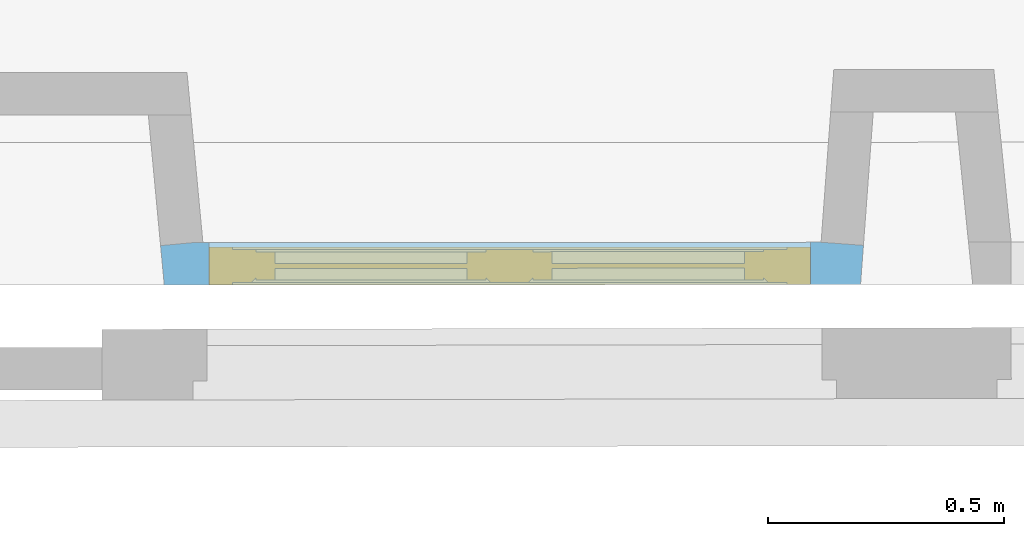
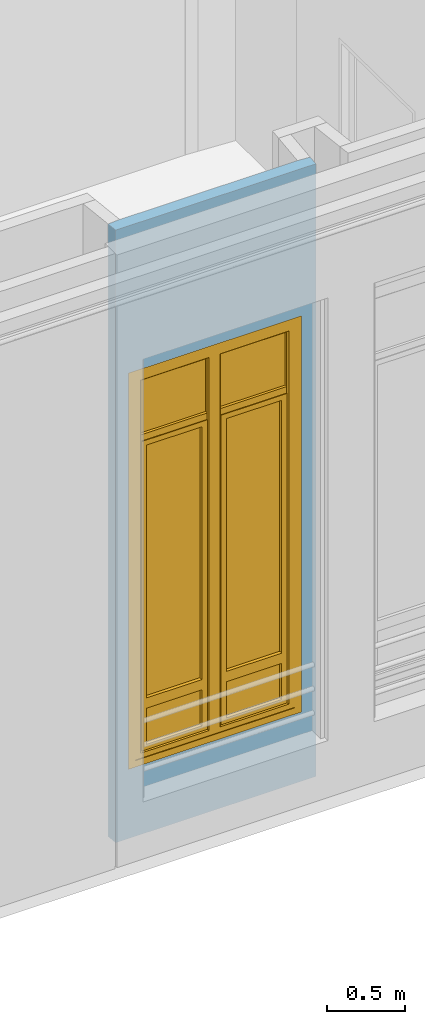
# One storey, part 52 of 97: 1 window, 1 opening, plus 1 element that does not belong to this part.
"""IFC2X3 building model written with IfcOpenShell, lengths in centimetres."""

from ifc_helpers import new_model, entity, si_unit, converted_unit, direction, frame, origin, origin_with_axes, place, context, subcontext, project, spatial, polyline, outline, extrude, faceted_brep, shape, source, transform, mapped, material, material_list, layer, layer_set, layer_usage, type_object, element, fill, save


model = new_model("IFC2X3")

# Units and contexts
model_context = context("Model", 3, precision=0.0001, world=origin(), true_north=direction((0.225632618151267, 0.974212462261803, 0.0)))
body_context = subcontext(model_context, "Body", "Model", "MODEL_VIEW")
footprint_context = subcontext(model_context, "FootPrint", "Model", "MODEL_VIEW")
profile_context = subcontext(model_context, "Profile", "Model", "MODEL_VIEW")
ifc_project = project(units=[si_unit("LENGTHUNIT", "METRE", prefix="CENTI"), si_unit("AREAUNIT", "SQUARE_METRE", prefix="CENTI"), si_unit("VOLUMEUNIT", "CUBIC_METRE", prefix="CENTI"), converted_unit("PLANEANGLEUNIT", "DEGREE", entity("IfcRatioMeasure", 0.0174532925), si_unit("PLANEANGLEUNIT", "RADIAN"), dimensions=[0, 0, 0, 0, 0, 0, 0])], contexts=[model_context])

# Site, building, storey
site_placement = place(None, origin_with_axes())
site = spatial("IfcSite", under=ifc_project, at=site_placement, Name="Default Site", CompositionType="ELEMENT")
building_placement = place(site_placement, origin_with_axes())
building = spatial("IfcBuilding", under=site, at=building_placement, Name="Default Building", CompositionType="ELEMENT")
storey_placement = place(building_placement, origin_with_axes())
storey = spatial("IfcBuildingStorey", under=building, at=storey_placement, Name="Rez-de-chaussée", CompositionType="ELEMENT", Elevation=0.0)

# Wall, opening, window
ifc_material_1 = material(Name="<aucun>")
ifc_layer = layer(ifc_material_1, 9.0)
ifc_layer_set = layer_set([ifc_layer], Name="default")
ifc_layer_usage = layer_usage(ifc_layer_set, "AXIS2", "POSITIVE", -4.5)
wall_type = type_object("IfcWallType", Name="default 90", PredefinedType="NOTDEFINED", material=ifc_layer_set)
wall_placement = place(storey_placement, frame((411.196494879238, -1020.73846299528, 0.0128503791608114), z_axis=(0.0, 0.0, 1.0), x_axis=(0.999999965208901, 0.000263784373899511, 0.0)))
wall = element("IfcWallStandardCase", 1, at=wall_placement, inside=storey, type_object=wall_type, material=ifc_layer_usage, Name="Enveloppe 768435", context=body_context, shape_type="SweptSolid", body=[
    extrude(outline(polyline([(-4.87621051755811, 3.81736189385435), (-4.09920490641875, -4.49999999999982), (143.535233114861, -4.50000000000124), (144.15018441, 3.8380241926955), (135.174562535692, 4.49999999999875), (2.43100603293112, 4.50044004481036), (-4.87621051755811, 3.81736189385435)])), frame((0.0, 0.0, -2.71050543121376e-18), z_axis=(0.0, 0.0, 1.0), x_axis=(1.0, 0.0, 0.0)), (0.0, 0.0, 1.0), 477.795358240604),
])
opening_placement = place(wall_placement, frame((5.34689146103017, 0.0, 54.0313409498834), z_axis=(0.0, 0.0, 1.0), x_axis=(1.0, -9.8671613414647e-15, 0.0)))
cartesian_point_1 = entity("IfcCartesianPoint", [8.88178419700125e-14, 0.0, 309.0])
cartesian_point_2 = entity("IfcCartesianPoint", [127.567440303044, 4.49999999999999])
opening = element("IfcOpeningElement", 2, at=opening_placement, cuts=wall, Name="4294966461_11", ObjectType="Opening", shapes=[
    shape(body_context, "Body", "SweptSolid", [extrude(outline(polyline([(0.0, 309.0), (0.0, 0.0), (127.567440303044, 0.0), (127.567440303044, 309.0), (0.0, 309.0)])), frame((0.0, 14.5, 0.0), z_axis=(0.0, -1.0, 0.0), x_axis=(1.0, 0.0, 0.0)), (0.0, 0.0, 1.0), 29.0)]),
    shape(profile_context, "Profile", "GeometricCurveSet", [entity("IfcGeometricCurveSet", [entity("IfcPolyline", [cartesian_point_1, entity("IfcCartesianPoint", [8.88178419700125e-14, 0.0, 0.0]), entity("IfcCartesianPoint", [127.567440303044, 0.0, 0.0]), entity("IfcCartesianPoint", [127.567440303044, 0.0, 309.0]), cartesian_point_1])])]),
    shape(footprint_context, "FootPrint", "GeometricCurveSet", [entity("IfcGeometricCurveSet", [entity("IfcPolyline", [cartesian_point_2, entity("IfcCartesianPoint", [0.0, 4.49999999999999]), entity("IfcCartesianPoint", [1.77635683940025e-13, -4.49999999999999]), entity("IfcCartesianPoint", [127.567440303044, -4.49999999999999]), cartesian_point_2])])]),
])
ifc_material_2 = material(Name="Transparent")
ifc_material_3 = material(Name="Blanc trafic")
ifc_material_4 = material(Name="Aluminium satiné")
ifc_material_5 = material(Name="Blanc trafic")
ifc_material_list = material_list([ifc_material_2, ifc_material_3, ifc_material_4, ifc_material_5])
window_style = type_object("IfcWindowStyle", Name="FN[R] 2VB[2V] MM", ConstructionType="NOTDEFINED", OperationType="NOTDEFINED", ParameterTakesPrecedence=False, Sizeable=False, material=ifc_material_list)
shared_shape = source(origin_with_axes(), body_context, "Body", "Brep", [
    faceted_brep([(-58.7837219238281, 303.999996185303, -3.99999991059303), (-58.7837219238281, 303.999996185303, 3.99999991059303), (-58.7837219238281, 5.00000007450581, 3.99999991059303), (-58.7837219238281, 5.00000007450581, -3.99999991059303), (-63.783723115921, 308.999991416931, 3.99999991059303), (-63.783723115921, -1.11022302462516e-14, 3.99999991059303), (-63.783723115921, 308.999991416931, -3.99999991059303), (-63.783723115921, -1.11022302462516e-14, -3.99999991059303), (58.7837219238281, 5.00000007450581, 3.99999991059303), (58.7837219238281, 5.00000007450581, -3.99999991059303), (63.783723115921, -1.11022302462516e-14, 3.99999991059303), (63.783723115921, -1.11022302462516e-14, -3.99999991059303), (58.7837219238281, 303.999996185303, 3.99999991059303), (58.7837219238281, 303.999996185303, -3.99999991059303), (63.783723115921, 308.999991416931, 3.99999991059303), (63.783723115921, 308.999991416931, -3.99999991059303)], [[[0, 1, 2, 3]], [[1, 4, 5, 2]], [[4, 6, 7, 5]], [[6, 0, 3, 7]], [[3, 2, 8, 9]], [[2, 5, 10, 8]], [[5, 7, 11, 10]], [[7, 3, 9, 11]], [[9, 8, 12, 13]], [[8, 10, 14, 12]], [[10, 11, 15, 14]], [[11, 9, 13, 15]], [[13, 12, 1, 0]], [[12, 14, 4, 1]], [[14, 15, 6, 4]], [[15, 13, 0, 6]]]),
    faceted_brep([(-54.7837197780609, 300.0, -3.50000001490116), (-53.7837202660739, 299.000000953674, -2.50000050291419), (-53.7837202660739, 10.0000001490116, -2.50000050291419), (-54.7837197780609, 9.00000035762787, -3.50000001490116), (-53.7837207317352, 299.000000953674, -2.5000000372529), (-53.7837207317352, 299.000000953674, 3.50000001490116), (-53.7837207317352, 10.0000001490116, 3.50000001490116), (-53.7837207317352, 10.0000001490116, -2.5000000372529), (-58.7837219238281, 303.999996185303, 3.50000001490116), (-58.7837219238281, 5.00000007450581, 3.50000001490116), (-58.7837219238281, 303.999996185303, -3.50000001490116), (-58.7837219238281, 5.00000007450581, -3.50000001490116), (-53.7837207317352, 10.0000002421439, -2.50000013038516), (-5.00000007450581, 10.0000002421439, -2.50000013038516), (-3.99999991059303, 9.00000035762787, -3.50000001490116), (-5.00000007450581, 10.0000001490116, 3.50000001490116), (-5.00000007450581, 10.0000001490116, -2.5000000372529), (3.33066907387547e-14, 5.00000007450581, 3.50000001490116), (3.33066907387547e-14, 5.00000007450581, -3.50000001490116), (-4.99999998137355, 10.0000001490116, -2.49999994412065), (-4.9999999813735, 299.000000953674, -2.4999999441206), (-3.99999991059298, 300.0, -3.50000001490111), (-5.00000007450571, 299.000000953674, 3.50000001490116), (-5.00000007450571, 299.000000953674, -2.5000000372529), (5.55111512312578e-14, 303.999996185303, 3.50000001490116), (-5.00000007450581, 299.000000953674, 3.50000001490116), (5.55111508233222e-14, 303.999996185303, -3.50000001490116), (5.55111508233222e-14, 303.999996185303, 3.50000001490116), (-3.99999991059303, 300.0, -3.50000001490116), (5.55111512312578e-14, 303.999996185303, -3.50000001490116), (-5.00000007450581, 299.000000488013, -2.5000005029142), (-53.7837207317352, 299.000000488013, -2.5000005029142), (-5.00000007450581, 299.000000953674, -2.5000000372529)], [[[0, 1, 2, 3]], [[4, 5, 6, 7]], [[5, 8, 9, 6]], [[8, 10, 11, 9]], [[10, 0, 3, 11]], [[3, 12, 13, 14]], [[7, 6, 15, 16]], [[6, 9, 17, 15]], [[9, 11, 18, 17]], [[11, 3, 14, 18]], [[14, 19, 20, 21]], [[16, 15, 22, 23]], [[15, 17, 24, 25]], [[17, 18, 26, 27]], [[18, 14, 28, 29]], [[28, 30, 31, 0]], [[32, 25, 5, 4]], [[25, 24, 8, 5]], [[24, 29, 10, 8]], [[29, 28, 0, 10]]]),
    faceted_brep([(-5.00000007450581, 299.000000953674, -0.499999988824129), (-5.00000007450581, 256.399989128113, -0.499999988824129), (-53.7837207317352, 256.399989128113, -0.499999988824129), (-53.7837207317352, 299.000000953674, -0.499999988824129), (-53.7837207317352, 299.000000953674, 0.499999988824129), (-53.7837207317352, 256.399989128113, 0.499999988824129), (-5.00000007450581, 256.399989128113, 0.499999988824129), (-5.00000007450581, 299.000000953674, 0.499999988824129)], [[[0, 1, 2, 3]], [[4, 5, 6, 7]], [[3, 2, 5, 4]], [[2, 1, 6, 5]], [[1, 0, 7, 6]], [[0, 3, 4, 7]]]),
    faceted_brep([(-5.00000007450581, 251.399993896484, 2.5000000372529), (-5.00000007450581, 251.399993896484, -2.5000000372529), (-5.00000007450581, 256.399989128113, -2.5000000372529), (-5.00000007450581, 256.399989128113, 2.5000000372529), (-53.7837207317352, 256.399989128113, 2.5000000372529), (-53.7837207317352, 256.399989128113, -2.5000000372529), (-53.7837207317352, 251.399993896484, -2.5000000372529), (-53.7837207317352, 251.399993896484, 2.5000000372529)], [[[0, 1, 2, 3]], [[4, 5, 6, 7]], [[3, 2, 5, 4]], [[2, 1, 6, 5]], [[1, 0, 7, 6]], [[0, 3, 4, 7]]]),
    faceted_brep([(-49.7837215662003, 247.399997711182, -2.99999993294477), (-49.7837215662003, 247.399997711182, 2.99999993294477), (-49.7837215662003, 50.2099990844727, 2.99999993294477), (-49.7837215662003, 50.2099990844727, -2.99999993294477), (-53.7837207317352, 251.399993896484, 2.99999993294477), (-53.7837207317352, 46.2099999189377, 2.99999993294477), (-53.7837207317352, 251.399993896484, -2.99999993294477), (-53.7837207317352, 46.2099999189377, -2.99999993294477), (-9.00000035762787, 50.2099990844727, 2.99999993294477), (-9.00000035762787, 50.2099990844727, -2.99999993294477), (-5.00000007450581, 46.2099999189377, 2.99999993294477), (-5.00000007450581, 46.2099999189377, -2.99999993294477), (-9.00000035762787, 247.399997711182, 2.99999993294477), (-9.00000035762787, 247.399997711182, -2.99999993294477), (-5.00000007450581, 251.399993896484, 2.99999993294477), (-5.0000000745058, 251.399993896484, -2.99999993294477), (-5.0000000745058, 251.399993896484, 2.99999993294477), (-5.00000007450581, 251.399993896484, -2.99999993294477)], [[[0, 1, 2, 3]], [[1, 4, 5, 2]], [[4, 6, 7, 5]], [[6, 0, 3, 7]], [[3, 2, 8, 9]], [[2, 5, 10, 8]], [[5, 7, 11, 10]], [[7, 3, 9, 11]], [[9, 8, 12, 13]], [[8, 10, 14, 12]], [[10, 11, 15, 16]], [[11, 9, 13, 17]], [[13, 12, 1, 0]], [[12, 14, 4, 1]], [[14, 17, 6, 4]], [[17, 13, 0, 6]]]),
    faceted_brep([(-9.00000035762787, 247.399997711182, -0.499999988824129), (-9.00000035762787, 50.2099990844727, -0.499999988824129), (-49.7837215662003, 50.2099990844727, -0.499999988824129), (-49.7837215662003, 247.399997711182, -0.499999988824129), (-49.7837215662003, 247.399997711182, 0.499999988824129), (-49.7837215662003, 50.2099990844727, 0.499999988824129), (-9.00000035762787, 50.2099990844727, 0.499999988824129), (-9.00000035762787, 247.399997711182, 0.499999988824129), (-9.00000035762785, 247.399997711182, -0.499999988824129), (-9.00000035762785, 247.399997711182, 0.499999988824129)], [[[0, 1, 2, 3]], [[4, 5, 6, 7]], [[3, 2, 5, 4]], [[2, 1, 6, 5]], [[1, 8, 9, 6]], [[0, 3, 4, 7]]]),
    faceted_brep([(-49.7837215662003, 42.2100007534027, -2.99999993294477), (-49.7837215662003, 42.2100007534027, 2.99999993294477), (-49.7837215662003, 14.0000000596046, 2.99999993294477), (-49.7837215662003, 14.0000000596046, -2.99999993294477), (-53.7837207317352, 46.2099999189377, 2.99999993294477), (-53.7837207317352, 10.0000001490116, 2.99999993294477), (-53.7837207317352, 46.2099999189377, -2.99999993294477), (-53.7837207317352, 10.0000001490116, -2.99999993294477), (-9.00000035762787, 14.0000000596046, 2.99999993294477), (-9.00000035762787, 14.0000000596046, -2.99999993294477), (-5.00000007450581, 10.0000001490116, 2.99999993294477), (-5.00000007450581, 10.0000001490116, -2.99999993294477), (-9.00000035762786, 42.2100007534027, 2.99999993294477), (-9.00000035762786, 42.2100007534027, -2.99999993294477), (-5.00000007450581, 46.2099999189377, 2.99999993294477), (-9.00000035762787, 42.2100007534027, 2.99999993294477), (-5.0000000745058, 46.2099999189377, -2.99999993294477), (-5.0000000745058, 46.2099999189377, 2.99999993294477), (-9.00000035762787, 42.2100007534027, -2.99999993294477), (-5.00000007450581, 46.2099999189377, -2.99999993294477)], [[[0, 1, 2, 3]], [[1, 4, 5, 2]], [[4, 6, 7, 5]], [[6, 0, 3, 7]], [[3, 2, 8, 9]], [[2, 5, 10, 8]], [[5, 7, 11, 10]], [[7, 3, 9, 11]], [[9, 8, 12, 13]], [[8, 10, 14, 15]], [[10, 11, 16, 17]], [[11, 9, 18, 19]], [[18, 15, 1, 0]], [[15, 14, 4, 1]], [[14, 19, 6, 4]], [[19, 18, 0, 6]]]),
    faceted_brep([(-9.00000035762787, 42.2100007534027, -0.499999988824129), (-9.00000035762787, 14.0000000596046, -0.499999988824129), (-49.7837215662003, 14.0000000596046, -0.499999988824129), (-49.7837215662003, 42.2100007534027, -0.499999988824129), (-49.7837215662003, 42.2100007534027, 0.499999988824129), (-49.7837215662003, 14.0000000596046, 0.499999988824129), (-9.00000035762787, 14.0000000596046, 0.499999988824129), (-9.00000035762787, 42.2100007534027, 0.499999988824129), (-9.00000035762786, 42.2100007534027, -0.499999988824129), (-9.00000035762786, 42.2100007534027, 0.499999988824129)], [[[0, 1, 2, 3]], [[4, 5, 6, 7]], [[3, 2, 5, 4]], [[2, 1, 6, 5]], [[1, 8, 9, 6]], [[0, 3, 4, 7]]]),
    faceted_brep([(3.99999991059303, 300.0, -3.50000001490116), (4.99999998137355, 299.000000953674, -2.49999994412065), (4.99999998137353, 10.0000001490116, -2.49999994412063), (3.99999991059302, 9.00000035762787, -3.50000001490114), (5.00000007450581, 299.000000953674, -2.5000000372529), (5.00000007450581, 299.000000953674, 3.50000001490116), (5.00000007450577, 10.0000001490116, 3.50000001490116), (5.00000007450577, 10.0000001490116, -2.5000000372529), (5.55111512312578e-14, 303.999996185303, 3.50000001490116), (3.33066907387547e-14, 5.00000007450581, 3.50000001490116), (5.00000007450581, 10.0000001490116, 3.50000001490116), (5.55111512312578e-14, 303.999996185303, -3.50000001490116), (3.33066911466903e-14, 5.00000007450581, -3.50000001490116), (3.33066911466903e-14, 5.00000007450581, 3.50000001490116), (3.99999991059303, 9.00000035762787, -3.50000001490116), (3.33066907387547e-14, 5.00000007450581, -3.50000001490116), (5.00000007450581, 10.0000002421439, -2.50000013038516), (53.7837207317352, 10.0000002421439, -2.50000013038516), (54.7837197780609, 9.00000035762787, -3.50000001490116), (5.00000007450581, 10.0000001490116, -2.5000000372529), (53.7837207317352, 10.0000001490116, 3.50000001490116), (53.7837207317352, 10.0000001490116, -2.5000000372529), (58.7837219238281, 5.00000007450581, 3.50000001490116), (58.7837219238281, 5.00000007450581, -3.50000001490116), (53.7837202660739, 10.0000001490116, -2.50000050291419), (53.783720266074, 299.000000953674, -2.50000050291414), (54.783719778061, 300.0, -3.50000001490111), (53.7837207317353, 299.000000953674, 3.50000001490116), (53.7837207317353, 299.000000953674, -2.5000000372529), (58.7837219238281, 303.999996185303, 3.50000001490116), (53.7837207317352, 299.000000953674, 3.50000001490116), (58.7837219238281, 303.999996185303, -3.50000001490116), (54.7837197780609, 300.0, -3.50000001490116), (53.7837207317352, 299.000000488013, -2.5000005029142), (5.00000007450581, 299.000000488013, -2.50000050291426), (3.99999991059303, 300.0, -3.50000001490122), (53.7837207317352, 299.000000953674, -2.5000000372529)], [[[0, 1, 2, 3]], [[4, 5, 6, 7]], [[5, 8, 9, 10]], [[8, 11, 12, 13]], [[11, 0, 14, 15]], [[14, 16, 17, 18]], [[19, 10, 20, 21]], [[10, 9, 22, 20]], [[9, 15, 23, 22]], [[15, 14, 18, 23]], [[18, 24, 25, 26]], [[21, 20, 27, 28]], [[20, 22, 29, 30]], [[22, 23, 31, 29]], [[23, 18, 32, 31]], [[32, 33, 34, 35]], [[36, 30, 5, 4]], [[30, 29, 8, 5]], [[29, 31, 11, 8]], [[31, 32, 0, 11]]]),
    faceted_brep([(4.50000017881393, 156.500005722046, 3.50000001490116), (4.50000017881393, 152.499997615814, 3.50000001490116), (0.499999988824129, 152.499997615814, 3.50000001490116), (0.499999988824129, 156.500005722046, 3.50000001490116), (0.499999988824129, 156.500005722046, 4.30000014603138), (0.499999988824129, 152.499997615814, 4.30000014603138), (4.50000017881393, 152.499997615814, 4.30000014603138), (4.50000017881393, 156.500005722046, 4.30000014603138)], [[[0, 1, 2, 3]], [[4, 5, 6, 7]], [[3, 2, 5, 4]], [[2, 1, 6, 5]], [[1, 0, 7, 6]], [[0, 3, 4, 7]]]),
    faceted_brep([(3.24999988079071, 154.999995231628, 4.30000014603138), (3.24999988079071, 153.999996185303, 4.30000014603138), (1.75000000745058, 153.999996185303, 4.30000014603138), (1.75000000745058, 154.999995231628, 4.30000014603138), (1.75000000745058, 154.999995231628, 8.29999968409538), (1.75000000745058, 153.999995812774, 7.30000026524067), (3.24999988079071, 153.999995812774, 7.30000026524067), (3.24999988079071, 154.999995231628, 8.29999968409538), (1.75000000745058, 153.999996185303, 7.29999989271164), (3.24999988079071, 153.999996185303, 7.29999989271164)], [[[0, 1, 2, 3]], [[4, 5, 6, 7]], [[3, 2, 8, 4]], [[2, 1, 9, 8]], [[1, 0, 7, 9]], [[0, 3, 4, 7]]]),
    faceted_brep([(3.24999988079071, 154.999995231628, 8.29999968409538), (3.24999988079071, 153.999995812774, 7.30000026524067), (1.75000000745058, 153.999995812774, 7.30000026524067), (1.75000000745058, 154.999995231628, 8.29999968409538), (1.75000000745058, 141.999995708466, 8.29999968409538), (1.75000000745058, 141.999995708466, 7.29999989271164), (3.24999988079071, 141.999995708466, 7.29999989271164), (3.24999988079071, 141.999995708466, 8.29999968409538), (1.75000000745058, 153.999996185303, 7.29999989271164), (3.24999988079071, 153.999996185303, 7.29999989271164)], [[[0, 1, 2, 3]], [[4, 5, 6, 7]], [[3, 8, 5, 4]], [[8, 9, 6, 5]], [[9, 0, 7, 6]], [[0, 3, 4, 7]]]),
    faceted_brep([(53.7837207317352, 299.000000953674, -0.499999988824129), (53.7837207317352, 256.399989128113, -0.499999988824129), (5.00000007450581, 256.399989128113, -0.499999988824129), (5.00000007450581, 299.000000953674, -0.499999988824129), (5.00000007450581, 299.000000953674, 0.499999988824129), (5.00000007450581, 256.399989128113, 0.499999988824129), (53.7837207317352, 256.399989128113, 0.499999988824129), (53.7837207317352, 299.000000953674, 0.499999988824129), (5.0000000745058, 256.399989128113, -0.499999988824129), (5.0000000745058, 256.399989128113, 0.499999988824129)], [[[0, 1, 2, 3]], [[4, 5, 6, 7]], [[3, 8, 9, 4]], [[2, 1, 6, 5]], [[1, 0, 7, 6]], [[0, 3, 4, 7]]]),
    faceted_brep([(53.7837207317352, 251.399993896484, 2.5000000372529), (53.7837207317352, 251.399993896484, -2.5000000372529), (53.7837207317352, 256.399989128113, -2.5000000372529), (53.7837207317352, 256.399989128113, 2.5000000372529), (5.00000007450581, 256.399989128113, 2.5000000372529), (5.00000007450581, 256.399989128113, -2.5000000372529), (5.00000007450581, 251.399993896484, -2.5000000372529), (5.00000007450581, 251.399993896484, 2.5000000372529)], [[[0, 1, 2, 3]], [[4, 5, 6, 7]], [[3, 2, 5, 4]], [[2, 1, 6, 5]], [[1, 0, 7, 6]], [[0, 3, 4, 7]]]),
    faceted_brep([(9.00000035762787, 247.399997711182, -2.99999993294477), (9.00000035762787, 247.399997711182, 2.99999993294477), (9.00000035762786, 50.2099990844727, 2.99999993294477), (9.00000035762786, 50.2099990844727, -2.99999993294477), (5.00000007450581, 251.399993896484, 2.99999993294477), (5.00000007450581, 46.2099999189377, 2.99999993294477), (9.00000035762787, 50.2099990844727, 2.99999993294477), (5.00000007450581, 251.399993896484, -2.99999993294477), (5.0000000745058, 46.2099999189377, -2.99999993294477), (5.0000000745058, 46.2099999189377, 2.99999993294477), (9.00000035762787, 50.2099990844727, -2.99999993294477), (5.00000007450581, 46.2099999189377, -2.99999993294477), (49.7837215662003, 50.2099990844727, 2.99999993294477), (49.7837215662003, 50.2099990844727, -2.99999993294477), (53.7837207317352, 46.2099999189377, 2.99999993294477), (53.7837207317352, 46.2099999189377, -2.99999993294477), (49.7837215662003, 247.399997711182, 2.99999993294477), (49.7837215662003, 247.399997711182, -2.99999993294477), (53.7837207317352, 251.399993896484, 2.99999993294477), (53.7837207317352, 251.399993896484, -2.99999993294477)], [[[0, 1, 2, 3]], [[1, 4, 5, 6]], [[4, 7, 8, 9]], [[7, 0, 10, 11]], [[10, 6, 12, 13]], [[6, 5, 14, 12]], [[5, 11, 15, 14]], [[11, 10, 13, 15]], [[13, 12, 16, 17]], [[12, 14, 18, 16]], [[14, 15, 19, 18]], [[15, 13, 17, 19]], [[17, 16, 1, 0]], [[16, 18, 4, 1]], [[18, 19, 7, 4]], [[19, 17, 0, 7]]]),
    faceted_brep([(49.7837215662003, 247.399997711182, -0.499999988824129), (49.7837215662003, 50.2099990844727, -0.499999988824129), (9.00000035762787, 50.2099990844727, -0.499999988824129), (9.00000035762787, 247.399997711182, -0.499999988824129), (9.00000035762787, 247.399997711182, 0.499999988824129), (9.00000035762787, 50.2099990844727, 0.499999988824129), (49.7837215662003, 50.2099990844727, 0.499999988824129), (49.7837215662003, 247.399997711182, 0.499999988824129), (9.00000035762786, 50.2099990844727, -0.499999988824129), (9.00000035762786, 50.2099990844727, 0.499999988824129)], [[[0, 1, 2, 3]], [[4, 5, 6, 7]], [[3, 8, 9, 4]], [[2, 1, 6, 5]], [[1, 0, 7, 6]], [[0, 3, 4, 7]]]),
    faceted_brep([(9.00000035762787, 42.2100007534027, -2.99999993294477), (9.00000035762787, 42.2100007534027, 2.99999993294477), (9.00000035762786, 14.0000000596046, 2.99999993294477), (9.00000035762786, 14.0000000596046, -2.99999993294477), (5.00000007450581, 46.2099999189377, 2.99999993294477), (5.00000007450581, 10.0000001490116, 2.99999993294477), (9.00000035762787, 14.0000000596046, 2.99999993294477), (5.00000007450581, 46.2099999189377, -2.99999993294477), (5.00000007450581, 10.0000001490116, -2.99999993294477), (9.00000035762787, 14.0000000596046, -2.99999993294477), (49.7837215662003, 14.0000000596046, 2.99999993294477), (49.7837215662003, 14.0000000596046, -2.99999993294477), (53.7837207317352, 10.0000001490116, 2.99999993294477), (53.7837207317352, 10.0000001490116, -2.99999993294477), (49.7837215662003, 42.2100007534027, 2.99999993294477), (49.7837215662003, 42.2100007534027, -2.99999993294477), (53.7837207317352, 46.2099999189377, 2.99999993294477), (53.7837207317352, 46.2099999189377, -2.99999993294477)], [[[0, 1, 2, 3]], [[1, 4, 5, 6]], [[4, 7, 8, 5]], [[7, 0, 9, 8]], [[9, 6, 10, 11]], [[6, 5, 12, 10]], [[5, 8, 13, 12]], [[8, 9, 11, 13]], [[11, 10, 14, 15]], [[10, 12, 16, 14]], [[12, 13, 17, 16]], [[13, 11, 15, 17]], [[15, 14, 1, 0]], [[14, 16, 4, 1]], [[16, 17, 7, 4]], [[17, 15, 0, 7]]]),
    faceted_brep([(49.7837215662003, 42.2100007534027, -0.499999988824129), (49.7837215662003, 14.0000000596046, -0.499999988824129), (9.00000035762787, 14.0000000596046, -0.499999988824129), (9.00000035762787, 42.2100007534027, -0.499999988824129), (9.00000035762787, 42.2100007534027, 0.499999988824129), (9.00000035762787, 14.0000000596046, 0.499999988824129), (49.7837215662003, 14.0000000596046, 0.499999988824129), (49.7837215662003, 42.2100007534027, 0.499999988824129), (9.00000035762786, 14.0000000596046, -0.499999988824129), (9.00000035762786, 14.0000000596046, 0.499999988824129)], [[[0, 1, 2, 3]], [[4, 5, 6, 7]], [[3, 8, 9, 4]], [[2, 1, 6, 5]], [[1, 0, 7, 6]], [[0, 3, 4, 7]]]),
])
window_placement = place(opening_placement, frame((1.13686837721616e-13, -4.49999999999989, 7.105427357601e-15), z_axis=(0.0, 0.0, 1.0), x_axis=(1.0, 0.0, 0.0)))
window = element("IfcWindow", 3, at=window_placement, inside=storey, type_object=window_style, material=ifc_material_list, Name="Fenêtre 23819", OverallHeight=309.0, OverallWidth=127.567440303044, context=body_context, shape_type="MappedRepresentation", body=[
    mapped(shared_shape, transform((63.7837201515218, 4.00000000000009, 0.0), x_axis=(-1.0, 0.0, 0.0), y_axis=(0.0, 0.0, 1.0), z_axis=(0.0, 1.0, 0.0), scale=1.0, scale2=1.0, scale3=1.0, uniform=False)),
])
fill(opening, window)

save(model, "model.ifc")
